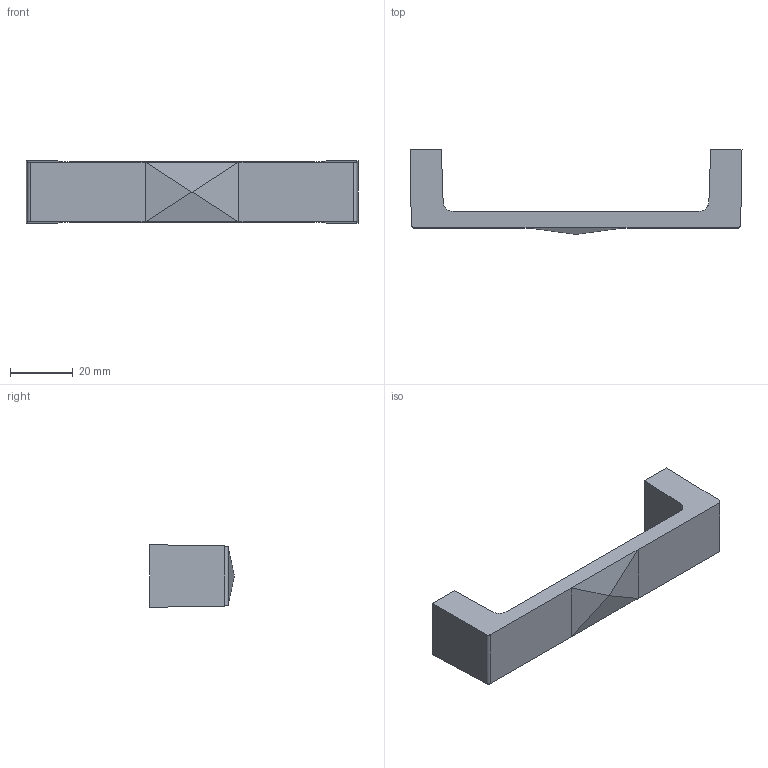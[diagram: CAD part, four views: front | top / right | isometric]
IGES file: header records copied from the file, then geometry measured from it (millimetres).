
Start section: Data from Parasolid IGES Translator 15.0.47, Copyright(c) 2006 Siemens P LM Software. All Rights Reserved.
Global section: file name: 115275.igs; native system:  By UGS Corp.; preprocessor: XPlus GENERIC/IGES 3.0; author: Noname; organization: Noname; date: 20140122.102749; units: millimetre
Bounding box: 106 x 27 x 20 mm (x, y, z)
Surface area: 7868 mm2 (no closed solid volume)
Topology: 0 solids, 0 shells, 23 faces, 104 edges, 102 vertices
Faces by surface type: extrusion 17, revolution 6
